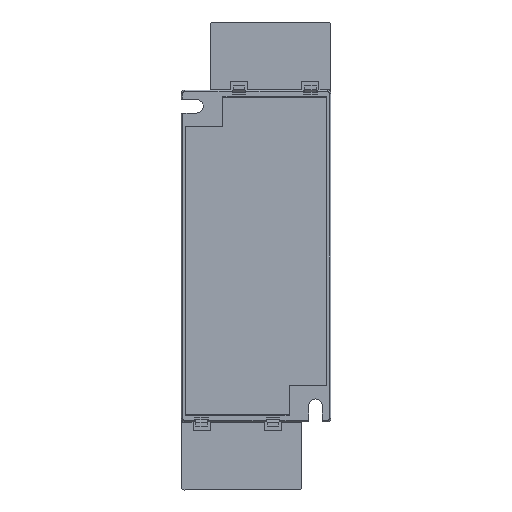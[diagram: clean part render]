
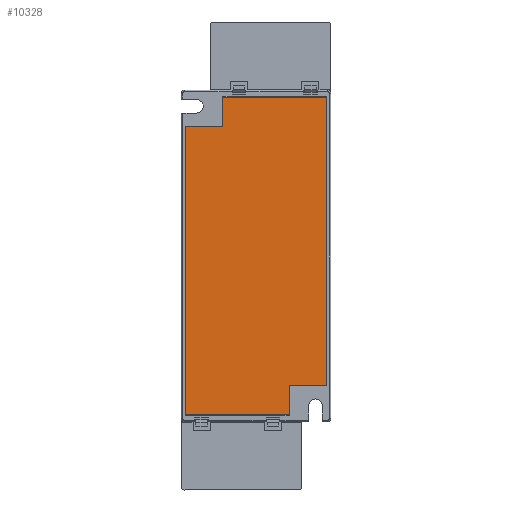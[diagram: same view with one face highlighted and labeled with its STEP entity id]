
A CAD part, front view. The second image highlights one B-rep face of the part: STEP entity #10328.
In plain terms, the highlighted planar face has unit normal (0, -1, 0).
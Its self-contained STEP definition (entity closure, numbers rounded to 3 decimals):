
#9190=DIRECTION('',(0.,0.,-1.));
#9191=VECTOR('',#9190,84.8);
#9192=CARTESIAN_POINT('',(20.65,0.,
46.7));
#9193=LINE('',#9192,#9191);
#9194=DIRECTION('',(0.,0.,1.));
#9195=VECTOR('',#9194,84.8);
#9196=CARTESIAN_POINT('',(-20.65,0.,
-46.7));
#9197=LINE('',#9196,#9195);
#9202=DIRECTION('',(1.,0.,0.));
#9203=VECTOR('',#9202,10.7);
#9204=CARTESIAN_POINT('',(9.95,0.,-38.1));
#9205=LINE('',#9204,#9203);
#9266=DIRECTION('',(1.,0.,0.));
#9267=VECTOR('',#9266,30.599);
#9268=CARTESIAN_POINT('',(-20.65,0.,
-46.7));
#9269=LINE('',#9268,#9267);
#9522=DIRECTION('',(-1.,0.,0.));
#9523=VECTOR('',#9522,30.599);
#9524=CARTESIAN_POINT('',(20.65,0.,
46.7));
#9525=LINE('',#9524,#9523);
#9530=DIRECTION('',(0.,0.,-1.));
#9531=VECTOR('',#9530,8.6);
#9532=CARTESIAN_POINT('',(-9.95,0.,
46.7));
#9533=LINE('',#9532,#9531);
#9538=DIRECTION('',(-1.,0.,0.));
#9539=VECTOR('',#9538,10.7);
#9540=CARTESIAN_POINT('',(-9.95,0.,38.1));
#9541=LINE('',#9540,#9539);
#9706=DIRECTION('',(0.,0.,1.));
#9707=VECTOR('',#9706,8.6);
#9708=CARTESIAN_POINT('',(9.95,0.,
-46.7));
#9709=LINE('',#9708,#9707);
#9957=CARTESIAN_POINT('',(-20.65,0.,
-46.7));
#9958=VERTEX_POINT('',#9957);
#9959=CARTESIAN_POINT('',(9.95,0.,
-46.7));
#9960=VERTEX_POINT('',#9959);
#10005=CARTESIAN_POINT('',(9.95,0.,-38.1));
#10006=VERTEX_POINT('',#10005);
#10007=CARTESIAN_POINT('',(20.65,0.,
46.7));
#10008=CARTESIAN_POINT('',(20.65,0.,
-38.1));
#10009=VERTEX_POINT('',#10007);
#10010=VERTEX_POINT('',#10008);
#10011=CARTESIAN_POINT('',(-20.65,0.,
38.1));
#10012=VERTEX_POINT('',#10011);
#10013=CARTESIAN_POINT('',(-9.95,0.,38.1));
#10014=VERTEX_POINT('',#10013);
#10015=CARTESIAN_POINT('',(-9.95,0.,
46.7));
#10016=VERTEX_POINT('',#10015);
#10306=CARTESIAN_POINT('',(0.,0.,-48.75));
#10307=DIRECTION('',(0.,-1.,0.));
#10308=DIRECTION('',(0.,0.,1.));
#10309=AXIS2_PLACEMENT_3D('',#10306,#10307,#10308);
#10310=PLANE('',#10309);
#10311=ORIENTED_EDGE('',*,*,#10257,.T.);
#10313=ORIENTED_EDGE('',*,*,#10312,.F.);
#10315=ORIENTED_EDGE('',*,*,#10314,.F.);
#10317=ORIENTED_EDGE('',*,*,#10316,.F.);
#10319=ORIENTED_EDGE('',*,*,#10318,.T.);
#10321=ORIENTED_EDGE('',*,*,#10320,.F.);
#10323=ORIENTED_EDGE('',*,*,#10322,.F.);
#10325=ORIENTED_EDGE('',*,*,#10324,.F.);
#10326=EDGE_LOOP('',(#10311,#10313,#10315,#10317,#10319,#10321,#10323,#10325));
#10327=FACE_OUTER_BOUND('',#10326,.F.);
#10257=EDGE_CURVE('',#10009,#10010,#9193,.T.);
#10312=EDGE_CURVE('',#10006,#10010,#9205,.T.);
#10314=EDGE_CURVE('',#9960,#10006,#9709,.T.);
#10316=EDGE_CURVE('',#9958,#9960,#9269,.T.);
#10318=EDGE_CURVE('',#9958,#10012,#9197,.T.);
#10320=EDGE_CURVE('',#10014,#10012,#9541,.T.);
#10322=EDGE_CURVE('',#10016,#10014,#9533,.T.);
#10324=EDGE_CURVE('',#10009,#10016,#9525,.T.);
#10328=ADVANCED_FACE('',(#10327),#10310,.T.);
